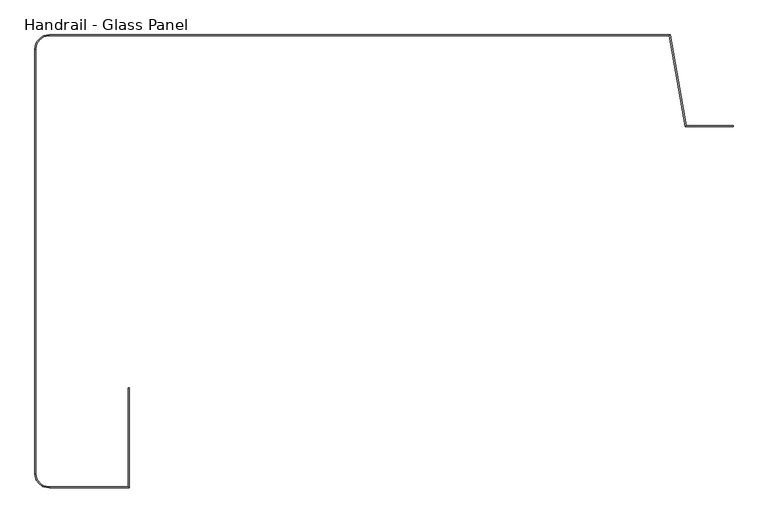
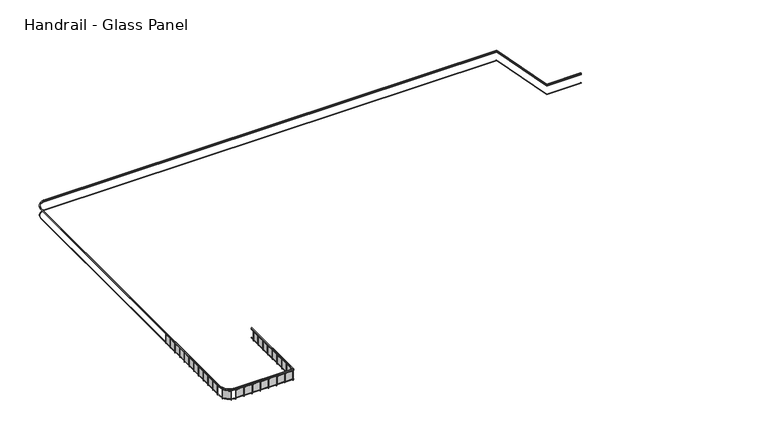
"""IFC4 building model written with IfcOpenShell, lengths in millimetres: railing geometry, Handrail - Glass Panel."""

from ifc_helpers import new_model, si_unit, frame, origin, place, context, project, spatial, polyline, circle_curve, outline, extrude, source, transform, mapped, element, save
from ifc_brep_helpers import plane_surface, cylinder_surface, revolved_surface, advanced_brep


def handrail_glass_panel_8400b6d2(model_context):
    return source(origin(), model_context, "Body", "SolidModel", [
        advanced_brep(
        [(19857.4134101, 5398.1851347, 9014.4), (19857.4134101, 5347.3851347, 9014.4), (19857.4134101, 5347.3851347, 8963.6), (19857.4134101, 5398.1851347, 8963.6), (17200.0396714, 5398.1851347, 9014.4), (17157.4134101, 5347.3851347, 9014.4), (17157.4134101, 5347.3851347, 8963.6), (17200.0396714, 5398.1851347, 8963.6), (16291.9557207, 10548.1851347, 9014.4), (16249.3294595, 10497.3851347, 9014.4), (16249.3294595, 10497.3851347, 8963.6), (16291.9557207, 10548.1851347, 8963.6), (-18887.5865899, 10548.1851347, 9014.4), (-18887.5865899, 10497.3851347, 9014.4), (-18887.5865899, 10497.3851347, 8963.6), (-18887.5865899, 10548.1851347, 8963.6), (-19637.5865899, 9747.3851347, 9014.4), (-19688.3865899, 9747.3851347, 9014.4), (-19637.5865899, 9747.3851347, 8963.6), (-19688.3865899, 9747.3851347, 8963.6), (-19688.3865899, -14322.6148653, 9014.4), (-19637.5865899, -14322.6148653, 9014.4), (-19637.5865899, -14322.6148653, 8963.6), (-19688.3865899, -14322.6148653, 8963.6), (-18887.5865899, -15072.6148653, 9014.4), (-18887.5865899, -15123.4148653, 9014.4), (-18887.5865899, -15072.6148653, 8963.6), (-18887.5865899, -15123.4148653, 8963.6), (-14346.7865899, -15123.4148653, 9014.4), (-14397.5865899, -15072.6148653, 9014.4), (-14397.5865899, -15072.6148653, 8963.6), (-14346.7865899, -15123.4148653, 8963.6), (-14346.7865899, -9472.6148653, 9014.4), (-14346.7865899, -9472.6148653, 8963.6), (-14397.5865899, -9472.6148653, 8963.6), (-14397.5865899, -9472.6148653, 9014.4)],
        [
            (0, 1),
            (1, 2),
            (2, 3),
            (3, 0),
            (0, 4),
            (4, 5),
            (5, 1),
            (5, 6),
            (6, 2),
            (6, 7),
            (7, 3),
            (7, 4),
            (4, 8),
            (8, 9),
            (9, 5),
            (9, 10),
            (10, 6),
            (10, 11),
            (11, 7),
            (11, 8),
            (8, 12),
            (12, 13),
            (13, 9),
            (13, 14),
            (14, 10),
            (14, 15),
            (15, 11),
            (15, 12),
            (16, 13, circle_curve(frame((-18887.5865899, 9747.3851347, 9014.4), z_axis=(0.0, 0.0, -1.0), x_axis=(0.0, 1.0, 0.0)), 750.0)),
            (12, 17, circle_curve(frame((-18887.5865899, 9747.3851347, 9014.4), z_axis=(0.0, 0.0, 1.0), x_axis=(0.0, 1.0, 0.0)), 800.8)),
            (17, 16),
            (18, 14, circle_curve(frame((-18887.5865899, 9747.3851347, 8963.6), z_axis=(0.0, 0.0, -1.0), x_axis=(0.0, 1.0, 0.0)), 750.0)),
            (16, 18),
            (19, 15, circle_curve(frame((-18887.5865899, 9747.3851347, 8963.6), z_axis=(0.0, 0.0, -1.0), x_axis=(0.0, 1.0, 0.0)), 800.8)),
            (18, 19),
            (19, 17),
            (17, 20),
            (20, 21),
            (21, 16),
            (21, 22),
            (22, 18),
            (22, 23),
            (23, 19),
            (23, 20),
            (24, 21, circle_curve(frame((-18887.5865899, -14322.6148653, 9014.4), z_axis=(0.0, 0.0, -1.0), x_axis=(-1.0, 0.0, 0.0)), 750.0)),
            (20, 25, circle_curve(frame((-18887.5865899, -14322.6148653, 9014.4), z_axis=(0.0, 0.0, 1.0), x_axis=(-1.0, 0.0, 0.0)), 800.8)),
            (25, 24),
            (26, 22, circle_curve(frame((-18887.5865899, -14322.6148653, 8963.6), z_axis=(0.0, 0.0, -1.0), x_axis=(-1.0, 0.0, 0.0)), 750.0)),
            (24, 26),
            (27, 23, circle_curve(frame((-18887.5865899, -14322.6148653, 8963.6), z_axis=(0.0, 0.0, -1.0), x_axis=(-1.0, 0.0, 0.0)), 800.8)),
            (26, 27),
            (27, 25),
            (25, 28),
            (28, 29),
            (29, 24),
            (29, 30),
            (30, 26),
            (30, 31),
            (31, 27),
            (31, 28),
            (32, 33),
            (33, 34),
            (34, 35),
            (35, 32),
            (28, 32),
            (35, 29),
            (34, 30),
            (33, 31),
        ],
        [
            plane_surface(frame((19857.4134101, 5372.7851347, 9014.4), z_axis=(1.0, 0.0, 0.0), x_axis=(0.0, -1.0, 0.0))),
            plane_surface(frame((19857.4134101, 5398.1851347, 9014.4), z_axis=(0.0, 0.0, 1.0), x_axis=(-1.0, 0.0, 0.0))),
            plane_surface(frame((19857.4134101, 5347.3851347, 9014.4), z_axis=(0.0, -1.0, 0.0), x_axis=(-1.0, 0.0, 0.0))),
            plane_surface(frame((19857.4134101, 5347.3851347, 8963.6), z_axis=(0.0, 0.0, -1.0), x_axis=(-1.0, 0.0, 0.0))),
            plane_surface(frame((19857.4134101, 5398.1851347, 8963.6), z_axis=(0.0, 1.0, 0.0), x_axis=(-1.0, 0.0, 0.0))),
            plane_surface(frame((17200.0396714, 5398.1851347, 9014.4), z_axis=(0.0, 0.0, 1.0000000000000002), x_axis=(-0.17364817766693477, 0.9848077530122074, 0.0))),
            plane_surface(frame((17157.4134101, 5347.3851347, 9014.4), z_axis=(-0.9848077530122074, -0.17364817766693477, 0.0), x_axis=(-0.17364817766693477, 0.9848077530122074, 0.0))),
            plane_surface(frame((17157.4134101, 5347.3851347, 8963.6), z_axis=(0.0, 0.0, -1.0000000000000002), x_axis=(-0.1736481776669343, 0.9848077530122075, 0.0))),
            plane_surface(frame((17200.0396714, 5398.1851347, 8963.6), z_axis=(0.9848077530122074, 0.17364817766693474, 0.0), x_axis=(-0.17364817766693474, 0.9848077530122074, 0.0))),
            plane_surface(frame((16291.9557207, 10548.1851347, 9014.4), z_axis=(0.0, 0.0, 1.0), x_axis=(-1.0, 0.0, 0.0))),
            plane_surface(frame((16249.3294595, 10497.3851347, 9014.4), z_axis=(0.0, -1.0, 0.0), x_axis=(-1.0, 0.0, 0.0))),
            plane_surface(frame((16249.3294595, 10497.3851347, 8963.6), z_axis=(0.0, 0.0, -1.0), x_axis=(-1.0, 0.0, 0.0))),
            plane_surface(frame((16291.9557207, 10548.1851347, 8963.6), z_axis=(0.0, 1.0, 0.0), x_axis=(-1.0, 0.0, 0.0))),
            plane_surface(frame((-18887.5865899, 9747.3851347, 9014.4), z_axis=(0.0, 0.0, 1.0), x_axis=(0.0, 1.0, 0.0))),
            revolved_surface(polyline([(-18887.5865899, 10497.3851347, 9014.4), (-18887.5865899, 10497.3851347, 8963.6)]), (-18887.5865899, 9747.3851347, 9014.4), (0.0, 0.0, 1.0)),
            plane_surface(frame((-18887.5865899, 9747.3851347, 8963.6), z_axis=(0.0, 0.0, -1.0), x_axis=(0.0, 1.0, 0.0))),
            cylinder_surface(frame((-18887.5865899, 9747.3851347, 9014.4), z_axis=(0.0, 0.0, 1.0), x_axis=(0.0, 1.0, 0.0)), 800.8),
            plane_surface(frame((-19688.3865899, 9747.3851347, 9014.4), z_axis=(0.0, 0.0, 1.0), x_axis=(0.0, -1.0, 0.0))),
            plane_surface(frame((-19637.5865899, 9747.3851347, 9014.4), z_axis=(1.0, 0.0, 0.0), x_axis=(0.0, -1.0, 0.0))),
            plane_surface(frame((-19637.5865899, 9747.3851347, 8963.6), z_axis=(0.0, 0.0, -1.0), x_axis=(0.0, -1.0, 0.0))),
            plane_surface(frame((-19688.3865899, 9747.3851347, 8963.6), z_axis=(-1.0, 0.0, 0.0), x_axis=(0.0, -1.0, 0.0))),
            plane_surface(frame((-18887.5865899, -14322.6148653, 9014.4), z_axis=(0.0, 0.0, 1.0), x_axis=(-1.0, 0.0, 0.0))),
            revolved_surface(polyline([(-19637.5865899, -14322.6148653, 9014.4), (-19637.5865899, -14322.6148653, 8963.6)]), (-18887.5865899, -14322.6148653, 9014.4), (0.0, 0.0, 1.0)),
            plane_surface(frame((-18887.5865899, -14322.6148653, 8963.6), z_axis=(0.0, 0.0, -1.0), x_axis=(-1.0, 0.0, 0.0))),
            cylinder_surface(frame((-18887.5865899, -14322.6148653, 9014.4), z_axis=(0.0, 0.0, 1.0), x_axis=(-1.0, 0.0, 0.0)), 800.8),
            plane_surface(frame((-18887.5865899, -15123.4148653, 9014.4), z_axis=(0.0, 0.0, 1.0), x_axis=(1.0, 0.0, 0.0))),
            plane_surface(frame((-18887.5865899, -15072.6148653, 9014.4), z_axis=(0.0, 1.0, 0.0), x_axis=(1.0, 0.0, 0.0))),
            plane_surface(frame((-18887.5865899, -15072.6148653, 8963.6), z_axis=(0.0, 0.0, -1.0), x_axis=(1.0, 0.0, 0.0))),
            plane_surface(frame((-18887.5865899, -15123.4148653, 8963.6), z_axis=(0.0, -1.0, 0.0), x_axis=(1.0, 0.0, 0.0))),
            plane_surface(frame((-14372.1865899, -9472.6148653, 9014.4), z_axis=(0.0, 1.0, 0.0), x_axis=(0.0, 0.0, 1.0))),
            plane_surface(frame((-14346.7865899, -15123.4148653, 9014.4), z_axis=(0.0, 0.0, 1.0), x_axis=(0.0, 1.0, 0.0))),
            plane_surface(frame((-14397.5865899, -15072.6148653, 9014.4), z_axis=(-1.0, 0.0, 0.0), x_axis=(0.0, 1.0, 0.0))),
            plane_surface(frame((-14397.5865899, -15072.6148653, 8963.6), z_axis=(0.0, 0.0, -1.0), x_axis=(0.0, 1.0, 0.0))),
            plane_surface(frame((-14346.7865899, -15123.4148653, 8963.6), z_axis=(1.0, 0.0, 0.0), x_axis=(0.0, 1.0, 0.0))),
        ],
        [
            (0, [[1, 2, 3, 4]]),
            (1, [[-1, 5, 6, 7]]),
            (2, [[-2, -7, 8, 9]]),
            (3, [[-3, -9, 10, 11]]),
            (4, [[-4, -11, 12, -5]]),
            (5, [[-6, 13, 14, 15]]),
            (6, [[-8, -15, 16, 17]]),
            (7, [[-10, -17, 18, 19]]),
            (8, [[-12, -19, 20, -13]]),
            (9, [[-14, 21, 22, 23]]),
            (10, [[-16, -23, 24, 25]]),
            (11, [[-18, -25, 26, 27]]),
            (12, [[-20, -27, 28, -21]]),
            (13, [[29, -22, 30, 31]]),
            (14, [[32, -24, -29, 33]]),
            (15, [[34, -26, -32, 35]]),
            (16, [[-30, -28, -34, 36]]),
            (17, [[-31, 37, 38, 39]]),
            (18, [[-33, -39, 40, 41]]),
            (19, [[-35, -41, 42, 43]]),
            (20, [[-36, -43, 44, -37]]),
            (21, [[45, -38, 46, 47]]),
            (22, [[48, -40, -45, 49]]),
            (23, [[50, -42, -48, 51]]),
            (24, [[-46, -44, -50, 52]]),
            (25, [[-47, 53, 54, 55]]),
            (26, [[-49, -55, 56, 57]]),
            (27, [[-51, -57, 58, 59]]),
            (28, [[-52, -59, 60, -53]]),
            (29, [[61, 62, 63, 64]]),
            (30, [[-54, 65, -64, 66]]),
            (31, [[-56, -66, -63, 67]]),
            (32, [[-58, -67, -62, 68]]),
            (33, [[-60, -68, -61, -65]]),
        ],
    ),
        advanced_brep(
        [(19857.4134101, 5385.4851347, 8912.8), (19857.4134101, 5360.0851347, 8912.8), (19857.4134101, 5360.0851347, 8887.4), (19857.4134101, 5385.4851347, 8887.4), (17189.3831061, 5385.4851347, 8912.8), (17168.0699754, 5360.0851347, 8912.8), (17168.0699754, 5360.0851347, 8887.4), (17189.3831061, 5385.4851347, 8887.4), (16281.2991554, 10535.4851347, 8912.8), (16259.9860248, 10510.0851347, 8912.8), (16259.9860248, 10510.0851347, 8887.4), (16281.2991554, 10535.4851347, 8887.4), (-18887.5865899, 10535.4851347, 8912.8), (-18887.5865899, 10510.0851347, 8912.8), (-18887.5865899, 10510.0851347, 8887.4), (-18887.5865899, 10535.4851347, 8887.4), (-19650.2865899, 9747.3851347, 8912.8), (-19675.6865899, 9747.3851347, 8912.8), (-19650.2865899, 9747.3851347, 8887.4), (-19675.6865899, 9747.3851347, 8887.4), (-19675.6865899, -14322.6148653, 8912.8), (-19650.2865899, -14322.6148653, 8912.8), (-19650.2865899, -14322.6148653, 8887.4), (-19675.6865899, -14322.6148653, 8887.4), (-18887.5865899, -15085.3148653, 8912.8), (-18887.5865899, -15110.7148653, 8912.8), (-18887.5865899, -15085.3148653, 8887.4), (-18887.5865899, -15110.7148653, 8887.4), (-14359.4865899, -15110.7148653, 8912.8), (-14384.8865899, -15085.3148653, 8912.8), (-14384.8865899, -15085.3148653, 8887.4), (-14359.4865899, -15110.7148653, 8887.4), (-14359.4865899, -9472.6148653, 8912.8), (-14359.4865899, -9472.6148653, 8887.4), (-14384.8865899, -9472.6148653, 8887.4), (-14384.8865899, -9472.6148653, 8912.8)],
        [
            (0, 1),
            (1, 2),
            (2, 3),
            (3, 0),
            (0, 4),
            (4, 5),
            (5, 1),
            (5, 6),
            (6, 2),
            (6, 7),
            (7, 3),
            (7, 4),
            (4, 8),
            (8, 9),
            (9, 5),
            (9, 10),
            (10, 6),
            (10, 11),
            (11, 7),
            (11, 8),
            (8, 12),
            (12, 13),
            (13, 9),
            (13, 14),
            (14, 10),
            (14, 15),
            (15, 11),
            (15, 12),
            (16, 13, circle_curve(frame((-18887.5865899, 9747.3851347, 8912.8), z_axis=(0.0, 0.0, -1.0), x_axis=(0.0, 1.0, 0.0)), 762.7)),
            (12, 17, circle_curve(frame((-18887.5865899, 9747.3851347, 8912.8), z_axis=(0.0, 0.0, 1.0), x_axis=(0.0, 1.0, 0.0)), 788.1)),
            (17, 16),
            (18, 14, circle_curve(frame((-18887.5865899, 9747.3851347, 8887.4), z_axis=(0.0, 0.0, -1.0), x_axis=(0.0, 1.0, 0.0)), 762.7)),
            (16, 18),
            (19, 15, circle_curve(frame((-18887.5865899, 9747.3851347, 8887.4), z_axis=(0.0, 0.0, -1.0), x_axis=(0.0, 1.0, 0.0)), 788.1)),
            (18, 19),
            (19, 17),
            (17, 20),
            (20, 21),
            (21, 16),
            (21, 22),
            (22, 18),
            (22, 23),
            (23, 19),
            (23, 20),
            (24, 21, circle_curve(frame((-18887.5865899, -14322.6148653, 8912.8), z_axis=(0.0, 0.0, -1.0), x_axis=(-1.0, 0.0, 0.0)), 762.7)),
            (20, 25, circle_curve(frame((-18887.5865899, -14322.6148653, 8912.8), z_axis=(0.0, 0.0, 1.0), x_axis=(-1.0, 0.0, 0.0)), 788.1)),
            (25, 24),
            (26, 22, circle_curve(frame((-18887.5865899, -14322.6148653, 8887.4), z_axis=(0.0, 0.0, -1.0), x_axis=(-1.0, 0.0, 0.0)), 762.7)),
            (24, 26),
            (27, 23, circle_curve(frame((-18887.5865899, -14322.6148653, 8887.4), z_axis=(0.0, 0.0, -1.0), x_axis=(-1.0, 0.0, 0.0)), 788.1)),
            (26, 27),
            (27, 25),
            (25, 28),
            (28, 29),
            (29, 24),
            (29, 30),
            (30, 26),
            (30, 31),
            (31, 27),
            (31, 28),
            (32, 33),
            (33, 34),
            (34, 35),
            (35, 32),
            (28, 32),
            (35, 29),
            (34, 30),
            (33, 31),
        ],
        [
            plane_surface(frame((19857.4134101, 5372.7851347, 8912.8), z_axis=(1.0, 0.0, 0.0), x_axis=(0.0, -1.0, 0.0))),
            plane_surface(frame((19857.4134101, 5385.4851347, 8912.8), z_axis=(0.0, 0.0, 1.0), x_axis=(-1.0, 0.0, 0.0))),
            plane_surface(frame((19857.4134101, 5360.0851347, 8912.8), z_axis=(0.0, -1.0, 0.0), x_axis=(-1.0, 0.0, 0.0))),
            plane_surface(frame((19857.4134101, 5360.0851347, 8887.4), z_axis=(0.0, 0.0, -1.0), x_axis=(-1.0, 0.0, 0.0))),
            plane_surface(frame((19857.4134101, 5385.4851347, 8887.4), z_axis=(0.0, 1.0, 0.0), x_axis=(-1.0, 0.0, 0.0))),
            plane_surface(frame((17189.3831061, 5385.4851347, 8912.8), z_axis=(0.0, 0.0, 1.0), x_axis=(-0.17364817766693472, 0.9848077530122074, 0.0))),
            plane_surface(frame((17168.0699754, 5360.0851347, 8912.8), z_axis=(-0.9848077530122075, -0.17364817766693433, 0.0), x_axis=(-0.17364817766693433, 0.9848077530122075, 0.0))),
            plane_surface(frame((17168.0699754, 5360.0851347, 8887.4), z_axis=(0.0, 0.0, -1.0000000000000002), x_axis=(-0.17364817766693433, 0.9848077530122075, 0.0))),
            plane_surface(frame((17189.3831061, 5385.4851347, 8887.4), z_axis=(0.9848077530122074, 0.17364817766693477, 0.0), x_axis=(-0.17364817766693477, 0.9848077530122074, 0.0))),
            plane_surface(frame((16281.2991554, 10535.4851347, 8912.8), z_axis=(0.0, 0.0, 1.0), x_axis=(-1.0, 0.0, 0.0))),
            plane_surface(frame((16259.9860248, 10510.0851347, 8912.8), z_axis=(0.0, -1.0, 0.0), x_axis=(-1.0, 0.0, 0.0))),
            plane_surface(frame((16259.9860248, 10510.0851347, 8887.4), z_axis=(0.0, 0.0, -1.0), x_axis=(-1.0, 0.0, 0.0))),
            plane_surface(frame((16281.2991554, 10535.4851347, 8887.4), z_axis=(0.0, 1.0, 0.0), x_axis=(-1.0, 0.0, 0.0))),
            plane_surface(frame((-18887.5865899, 9747.3851347, 8912.8), z_axis=(0.0, 0.0, 1.0), x_axis=(0.0, 1.0, 0.0))),
            revolved_surface(polyline([(-18887.5865899, 10510.0851347, 8912.8), (-18887.5865899, 10510.0851347, 8887.4)]), (-18887.5865899, 9747.3851347, 8912.8), (0.0, 0.0, 1.0)),
            plane_surface(frame((-18887.5865899, 9747.3851347, 8887.4), z_axis=(0.0, 0.0, -1.0), x_axis=(0.0, 1.0, 0.0))),
            cylinder_surface(frame((-18887.5865899, 9747.3851347, 8912.8), z_axis=(0.0, 0.0, 1.0), x_axis=(0.0, 1.0, 0.0)), 788.1),
            plane_surface(frame((-19675.6865899, 9747.3851347, 8912.8), z_axis=(0.0, 0.0, 1.0), x_axis=(0.0, -1.0, 0.0))),
            plane_surface(frame((-19650.2865899, 9747.3851347, 8912.8), z_axis=(1.0, 0.0, 0.0), x_axis=(0.0, -1.0, 0.0))),
            plane_surface(frame((-19650.2865899, 9747.3851347, 8887.4), z_axis=(0.0, 0.0, -1.0), x_axis=(0.0, -1.0, 0.0))),
            plane_surface(frame((-19675.6865899, 9747.3851347, 8887.4), z_axis=(-1.0, 0.0, 0.0), x_axis=(0.0, -1.0, 0.0))),
            plane_surface(frame((-18887.5865899, -14322.6148653, 8912.8), z_axis=(0.0, 0.0, 1.0), x_axis=(-1.0, 0.0, 0.0))),
            revolved_surface(polyline([(-19650.2865899, -14322.6148653, 8912.8), (-19650.2865899, -14322.6148653, 8887.4)]), (-18887.5865899, -14322.6148653, 8912.8), (0.0, 0.0, 1.0)),
            plane_surface(frame((-18887.5865899, -14322.6148653, 8887.4), z_axis=(0.0, 0.0, -1.0), x_axis=(-1.0, 0.0, 0.0))),
            cylinder_surface(frame((-18887.5865899, -14322.6148653, 8912.8), z_axis=(0.0, 0.0, 1.0), x_axis=(-1.0, 0.0, 0.0)), 788.1),
            plane_surface(frame((-18887.5865899, -15110.7148653, 8912.8), z_axis=(0.0, 0.0, 1.0), x_axis=(1.0, 0.0, 0.0))),
            plane_surface(frame((-18887.5865899, -15085.3148653, 8912.8), z_axis=(0.0, 1.0, 0.0), x_axis=(1.0, 0.0, 0.0))),
            plane_surface(frame((-18887.5865899, -15085.3148653, 8887.4), z_axis=(0.0, 0.0, -1.0), x_axis=(1.0, 0.0, 0.0))),
            plane_surface(frame((-18887.5865899, -15110.7148653, 8887.4), z_axis=(0.0, -1.0, 0.0), x_axis=(1.0, 0.0, 0.0))),
            plane_surface(frame((-14372.1865899, -9472.6148653, 8912.8), z_axis=(0.0, 1.0, 0.0), x_axis=(0.0, 0.0, 1.0))),
            plane_surface(frame((-14359.4865899, -15110.7148653, 8912.8), z_axis=(0.0, 0.0, 1.0), x_axis=(0.0, 1.0, 0.0))),
            plane_surface(frame((-14384.8865899, -15085.3148653, 8912.8), z_axis=(-1.0, 0.0, 0.0), x_axis=(0.0, 1.0, 0.0))),
            plane_surface(frame((-14384.8865899, -15085.3148653, 8887.4), z_axis=(0.0, 0.0, -1.0), x_axis=(0.0, 1.0, 0.0))),
            plane_surface(frame((-14359.4865899, -15110.7148653, 8887.4), z_axis=(1.0, 0.0, 0.0), x_axis=(0.0, 1.0, 0.0))),
        ],
        [
            (0, [[1, 2, 3, 4]]),
            (1, [[-1, 5, 6, 7]]),
            (2, [[-2, -7, 8, 9]]),
            (3, [[-3, -9, 10, 11]]),
            (4, [[-4, -11, 12, -5]]),
            (5, [[-6, 13, 14, 15]]),
            (6, [[-8, -15, 16, 17]]),
            (7, [[-10, -17, 18, 19]]),
            (8, [[-12, -19, 20, -13]]),
            (9, [[-14, 21, 22, 23]]),
            (10, [[-16, -23, 24, 25]]),
            (11, [[-18, -25, 26, 27]]),
            (12, [[-20, -27, 28, -21]]),
            (13, [[29, -22, 30, 31]]),
            (14, [[32, -24, -29, 33]]),
            (15, [[34, -26, -32, 35]]),
            (16, [[-30, -28, -34, 36]]),
            (17, [[-31, 37, 38, 39]]),
            (18, [[-33, -39, 40, 41]]),
            (19, [[-35, -41, 42, 43]]),
            (20, [[-36, -43, 44, -37]]),
            (21, [[45, -38, 46, 47]]),
            (22, [[48, -40, -45, 49]]),
            (23, [[50, -42, -48, 51]]),
            (24, [[-46, -44, -50, 52]]),
            (25, [[-47, 53, 54, 55]]),
            (26, [[-49, -55, 56, 57]]),
            (27, [[-51, -57, 58, 59]]),
            (28, [[-52, -59, 60, -53]]),
            (29, [[61, 62, 63, 64]]),
            (30, [[-54, 65, -64, 66]]),
            (31, [[-56, -66, -63, 67]]),
            (32, [[-58, -67, -62, 68]]),
            (33, [[-60, -68, -61, -65]]),
        ],
    ),
        advanced_brep(
        [(19857.4134101, 5385.4851347, 8201.6), (19857.4134101, 5360.0851347, 8201.6), (19857.4134101, 5360.0851347, 8176.2), (19857.4134101, 5385.4851347, 8176.2), (17189.3831061, 5385.4851347, 8201.6), (17168.0699754, 5360.0851347, 8201.6), (17168.0699754, 5360.0851347, 8176.2), (17189.3831061, 5385.4851347, 8176.2), (16281.2991554, 10535.4851347, 8201.6), (16259.9860248, 10510.0851347, 8201.6), (16259.9860248, 10510.0851347, 8176.2), (16281.2991554, 10535.4851347, 8176.2), (-18887.5865899, 10535.4851347, 8201.6), (-18887.5865899, 10510.0851347, 8201.6), (-18887.5865899, 10510.0851347, 8176.2), (-18887.5865899, 10535.4851347, 8176.2), (-19650.2865899, 9747.3851347, 8201.6), (-19675.6865899, 9747.3851347, 8201.6), (-19650.2865899, 9747.3851347, 8176.2), (-19675.6865899, 9747.3851347, 8176.2), (-19675.6865899, -14322.6148653, 8201.6), (-19650.2865899, -14322.6148653, 8201.6), (-19650.2865899, -14322.6148653, 8176.2), (-19675.6865899, -14322.6148653, 8176.2), (-18887.5865899, -15085.3148653, 8201.6), (-18887.5865899, -15110.7148653, 8201.6), (-18887.5865899, -15085.3148653, 8176.2), (-18887.5865899, -15110.7148653, 8176.2), (-14359.4865899, -15110.7148653, 8201.6), (-14384.8865899, -15085.3148653, 8201.6), (-14384.8865899, -15085.3148653, 8176.2), (-14359.4865899, -15110.7148653, 8176.2), (-14359.4865899, -9472.6148653, 8201.6), (-14359.4865899, -9472.6148653, 8176.2), (-14384.8865899, -9472.6148653, 8176.2), (-14384.8865899, -9472.6148653, 8201.6)],
        [
            (0, 1),
            (1, 2),
            (2, 3),
            (3, 0),
            (0, 4),
            (4, 5),
            (5, 1),
            (5, 6),
            (6, 2),
            (6, 7),
            (7, 3),
            (7, 4),
            (4, 8),
            (8, 9),
            (9, 5),
            (9, 10),
            (10, 6),
            (10, 11),
            (11, 7),
            (11, 8),
            (8, 12),
            (12, 13),
            (13, 9),
            (13, 14),
            (14, 10),
            (14, 15),
            (15, 11),
            (15, 12),
            (16, 13, circle_curve(frame((-18887.5865899, 9747.3851347, 8201.6), z_axis=(0.0, 0.0, -1.0), x_axis=(0.0, 1.0, 0.0)), 762.7)),
            (12, 17, circle_curve(frame((-18887.5865899, 9747.3851347, 8201.6), z_axis=(0.0, 0.0, 1.0), x_axis=(0.0, 1.0, 0.0)), 788.1)),
            (17, 16),
            (18, 14, circle_curve(frame((-18887.5865899, 9747.3851347, 8176.2), z_axis=(0.0, 0.0, -1.0), x_axis=(0.0, 1.0, 0.0)), 762.7)),
            (16, 18),
            (19, 15, circle_curve(frame((-18887.5865899, 9747.3851347, 8176.2), z_axis=(0.0, 0.0, -1.0), x_axis=(0.0, 1.0, 0.0)), 788.1)),
            (18, 19),
            (19, 17),
            (17, 20),
            (20, 21),
            (21, 16),
            (21, 22),
            (22, 18),
            (22, 23),
            (23, 19),
            (23, 20),
            (24, 21, circle_curve(frame((-18887.5865899, -14322.6148653, 8201.6), z_axis=(0.0, 0.0, -1.0), x_axis=(-1.0, 0.0, 0.0)), 762.7)),
            (20, 25, circle_curve(frame((-18887.5865899, -14322.6148653, 8201.6), z_axis=(0.0, 0.0, 1.0), x_axis=(-1.0, 0.0, 0.0)), 788.1)),
            (25, 24),
            (26, 22, circle_curve(frame((-18887.5865899, -14322.6148653, 8176.2), z_axis=(0.0, 0.0, -1.0), x_axis=(-1.0, 0.0, 0.0)), 762.7)),
            (24, 26),
            (27, 23, circle_curve(frame((-18887.5865899, -14322.6148653, 8176.2), z_axis=(0.0, 0.0, -1.0), x_axis=(-1.0, 0.0, 0.0)), 788.1)),
            (26, 27),
            (27, 25),
            (25, 28),
            (28, 29),
            (29, 24),
            (29, 30),
            (30, 26),
            (30, 31),
            (31, 27),
            (31, 28),
            (32, 33),
            (33, 34),
            (34, 35),
            (35, 32),
            (28, 32),
            (35, 29),
            (34, 30),
            (33, 31),
        ],
        [
            plane_surface(frame((19857.4134101, 5372.7851347, 8201.6), z_axis=(1.0, 0.0, 0.0), x_axis=(0.0, -1.0, 0.0))),
            plane_surface(frame((19857.4134101, 5385.4851347, 8201.6), z_axis=(0.0, 0.0, 1.0), x_axis=(-1.0, 0.0, 0.0))),
            plane_surface(frame((19857.4134101, 5360.0851347, 8201.6), z_axis=(0.0, -1.0, 0.0), x_axis=(-1.0, 0.0, 0.0))),
            plane_surface(frame((19857.4134101, 5360.0851347, 8176.2), z_axis=(0.0, 0.0, -1.0), x_axis=(-1.0, 0.0, 0.0))),
            plane_surface(frame((19857.4134101, 5385.4851347, 8176.2), z_axis=(0.0, 1.0, 0.0), x_axis=(-1.0, 0.0, 0.0))),
            plane_surface(frame((17189.3831061, 5385.4851347, 8201.6), z_axis=(0.0, 0.0, 1.0), x_axis=(-0.17364817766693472, 0.9848077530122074, 0.0))),
            plane_surface(frame((17168.0699754, 5360.0851347, 8201.6), z_axis=(-0.9848077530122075, -0.17364817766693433, 0.0), x_axis=(-0.17364817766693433, 0.9848077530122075, 0.0))),
            plane_surface(frame((17168.0699754, 5360.0851347, 8176.2), z_axis=(0.0, 0.0, -1.0000000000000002), x_axis=(-0.17364817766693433, 0.9848077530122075, 0.0))),
            plane_surface(frame((17189.3831061, 5385.4851347, 8176.2), z_axis=(0.9848077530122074, 0.17364817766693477, 0.0), x_axis=(-0.17364817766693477, 0.9848077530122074, 0.0))),
            plane_surface(frame((16281.2991554, 10535.4851347, 8201.6), z_axis=(0.0, 0.0, 1.0), x_axis=(-1.0, 0.0, 0.0))),
            plane_surface(frame((16259.9860248, 10510.0851347, 8201.6), z_axis=(0.0, -1.0, 0.0), x_axis=(-1.0, 0.0, 0.0))),
            plane_surface(frame((16259.9860248, 10510.0851347, 8176.2), z_axis=(0.0, 0.0, -1.0), x_axis=(-1.0, 0.0, 0.0))),
            plane_surface(frame((16281.2991554, 10535.4851347, 8176.2), z_axis=(0.0, 1.0, 0.0), x_axis=(-1.0, 0.0, 0.0))),
            plane_surface(frame((-18887.5865899, 9747.3851347, 8201.6), z_axis=(0.0, 0.0, 1.0), x_axis=(0.0, 1.0, 0.0))),
            revolved_surface(polyline([(-18887.5865899, 10510.0851347, 8201.6), (-18887.5865899, 10510.0851347, 8176.2)]), (-18887.5865899, 9747.3851347, 8201.6), (0.0, 0.0, 1.0)),
            plane_surface(frame((-18887.5865899, 9747.3851347, 8176.2), z_axis=(0.0, 0.0, -1.0), x_axis=(0.0, 1.0, 0.0))),
            cylinder_surface(frame((-18887.5865899, 9747.3851347, 8201.6), z_axis=(0.0, 0.0, 1.0), x_axis=(0.0, 1.0, 0.0)), 788.1),
            plane_surface(frame((-19675.6865899, 9747.3851347, 8201.6), z_axis=(0.0, 0.0, 1.0), x_axis=(0.0, -1.0, 0.0))),
            plane_surface(frame((-19650.2865899, 9747.3851347, 8201.6), z_axis=(1.0, 0.0, 0.0), x_axis=(0.0, -1.0, 0.0))),
            plane_surface(frame((-19650.2865899, 9747.3851347, 8176.2), z_axis=(0.0, 0.0, -1.0), x_axis=(0.0, -1.0, 0.0))),
            plane_surface(frame((-19675.6865899, 9747.3851347, 8176.2), z_axis=(-1.0, 0.0, 0.0), x_axis=(0.0, -1.0, 0.0))),
            plane_surface(frame((-18887.5865899, -14322.6148653, 8201.6), z_axis=(0.0, 0.0, 1.0), x_axis=(-1.0, 0.0, 0.0))),
            revolved_surface(polyline([(-19650.2865899, -14322.6148653, 8201.6), (-19650.2865899, -14322.6148653, 8176.2)]), (-18887.5865899, -14322.6148653, 8201.6), (0.0, 0.0, 1.0)),
            plane_surface(frame((-18887.5865899, -14322.6148653, 8176.2), z_axis=(0.0, 0.0, -1.0), x_axis=(-1.0, 0.0, 0.0))),
            cylinder_surface(frame((-18887.5865899, -14322.6148653, 8201.6), z_axis=(0.0, 0.0, 1.0), x_axis=(-1.0, 0.0, 0.0)), 788.1),
            plane_surface(frame((-18887.5865899, -15110.7148653, 8201.6), z_axis=(0.0, 0.0, 1.0), x_axis=(1.0, 0.0, 0.0))),
            plane_surface(frame((-18887.5865899, -15085.3148653, 8201.6), z_axis=(0.0, 1.0, 0.0), x_axis=(1.0, 0.0, 0.0))),
            plane_surface(frame((-18887.5865899, -15085.3148653, 8176.2), z_axis=(0.0, 0.0, -1.0), x_axis=(1.0, 0.0, 0.0))),
            plane_surface(frame((-18887.5865899, -15110.7148653, 8176.2), z_axis=(0.0, -1.0, 0.0), x_axis=(1.0, 0.0, 0.0))),
            plane_surface(frame((-14372.1865899, -9472.6148653, 8201.6), z_axis=(0.0, 1.0, 0.0), x_axis=(0.0, 0.0, 1.0))),
            plane_surface(frame((-14359.4865899, -15110.7148653, 8201.6), z_axis=(0.0, 0.0, 1.0), x_axis=(0.0, 1.0, 0.0))),
            plane_surface(frame((-14384.8865899, -15085.3148653, 8201.6), z_axis=(-1.0, 0.0, 0.0), x_axis=(0.0, 1.0, 0.0))),
            plane_surface(frame((-14384.8865899, -15085.3148653, 8176.2), z_axis=(0.0, 0.0, -1.0), x_axis=(0.0, 1.0, 0.0))),
            plane_surface(frame((-14359.4865899, -15110.7148653, 8176.2), z_axis=(1.0, 0.0, 0.0), x_axis=(0.0, 1.0, 0.0))),
        ],
        [
            (0, [[1, 2, 3, 4]]),
            (1, [[-1, 5, 6, 7]]),
            (2, [[-2, -7, 8, 9]]),
            (3, [[-3, -9, 10, 11]]),
            (4, [[-4, -11, 12, -5]]),
            (5, [[-6, 13, 14, 15]]),
            (6, [[-8, -15, 16, 17]]),
            (7, [[-10, -17, 18, 19]]),
            (8, [[-12, -19, 20, -13]]),
            (9, [[-14, 21, 22, 23]]),
            (10, [[-16, -23, 24, 25]]),
            (11, [[-18, -25, 26, 27]]),
            (12, [[-20, -27, 28, -21]]),
            (13, [[29, -22, 30, 31]]),
            (14, [[32, -24, -29, 33]]),
            (15, [[34, -26, -32, 35]]),
            (16, [[-30, -28, -34, 36]]),
            (17, [[-31, 37, 38, 39]]),
            (18, [[-33, -39, 40, 41]]),
            (19, [[-35, -41, 42, 43]]),
            (20, [[-36, -43, 44, -37]]),
            (21, [[45, -38, 46, 47]]),
            (22, [[48, -40, -45, 49]]),
            (23, [[50, -42, -48, 51]]),
            (24, [[-46, -44, -50, 52]]),
            (25, [[-47, 53, 54, 55]]),
            (26, [[-49, -55, 56, 57]]),
            (27, [[-51, -57, 58, 59]]),
            (28, [[-52, -59, 60, -53]]),
            (29, [[61, 62, 63, 64]]),
            (30, [[-54, 65, -64, 66]]),
            (31, [[-56, -66, -63, 67]]),
            (32, [[-58, -67, -62, 68]]),
            (33, [[-60, -68, -61, -65]]),
        ],
    ),
        extrude(outline(polyline([(-14362.6615899, -9754.8398653), (-14381.7115899, -9754.8398653), (-14381.7115899, -9735.7898653), (-14362.6615899, -9735.7898653), (-14362.6615899, -9754.8398653)])), frame((0.0, 0.0, 8100.0), z_axis=(0.0, 0.0, 1.0), x_axis=(1.0, 0.0, 0.0)), (0.0, 0.0, 1.0), 863.6),
        extrude(outline(polyline([(-14378.5365899, -10342.2148653), (-14378.5365899, -9783.4148653), (-14372.1865899, -9783.4148653), (-14372.1865899, -10342.2148653), (-14378.5365899, -10342.2148653)])), frame((0.0, 0.0, 8227.0), z_axis=(0.0, 0.0, 1.0), x_axis=(1.0, 0.0, 0.0)), (0.0, 0.0, 1.0), 635.0),
        extrude(outline(polyline([(-14362.6615899, -10389.8398653), (-14381.7115899, -10389.8398653), (-14381.7115899, -10370.7898653), (-14362.6615899, -10370.7898653), (-14362.6615899, -10389.8398653)])), frame((0.0, 0.0, 8100.0), z_axis=(0.0, 0.0, 1.0), x_axis=(1.0, 0.0, 0.0)), (0.0, 0.0, 1.0), 863.6),
        extrude(outline(polyline([(-14378.5365899, -10977.2148653), (-14378.5365899, -10418.4148653), (-14372.1865899, -10418.4148653), (-14372.1865899, -10977.2148653), (-14378.5365899, -10977.2148653)])), frame((0.0, 0.0, 8227.0), z_axis=(0.0, 0.0, 1.0), x_axis=(1.0, 0.0, 0.0)), (0.0, 0.0, 1.0), 635.0),
        extrude(outline(polyline([(-14362.6615899, -11024.8398653), (-14381.7115899, -11024.8398653), (-14381.7115899, -11005.7898653), (-14362.6615899, -11005.7898653), (-14362.6615899, -11024.8398653)])), frame((0.0, 0.0, 8100.0), z_axis=(0.0, 0.0, 1.0), x_axis=(1.0, 0.0, 0.0)), (0.0, 0.0, 1.0), 863.6),
        extrude(outline(polyline([(-14378.5365899, -11612.2148653), (-14378.5365899, -11053.4148653), (-14372.1865899, -11053.4148653), (-14372.1865899, -11612.2148653), (-14378.5365899, -11612.2148653)])), frame((0.0, 0.0, 8227.0), z_axis=(0.0, 0.0, 1.0), x_axis=(1.0, 0.0, 0.0)), (0.0, 0.0, 1.0), 635.0),
        extrude(outline(polyline([(-14362.6615899, -11659.8398653), (-14381.7115899, -11659.8398653), (-14381.7115899, -11640.7898653), (-14362.6615899, -11640.7898653), (-14362.6615899, -11659.8398653)])), frame((0.0, 0.0, 8100.0), z_axis=(0.0, 0.0, 1.0), x_axis=(1.0, 0.0, 0.0)), (0.0, 0.0, 1.0), 863.6),
        extrude(outline(polyline([(-14378.5365899, -12247.2148653), (-14378.5365899, -11688.4148653), (-14372.1865899, -11688.4148653), (-14372.1865899, -12247.2148653), (-14378.5365899, -12247.2148653)])), frame((0.0, 0.0, 8227.0), z_axis=(0.0, 0.0, 1.0), x_axis=(1.0, 0.0, 0.0)), (0.0, 0.0, 1.0), 635.0),
        extrude(outline(polyline([(-14362.6615899, -12294.8398653), (-14381.7115899, -12294.8398653), (-14381.7115899, -12275.7898653), (-14362.6615899, -12275.7898653), (-14362.6615899, -12294.8398653)])), frame((0.0, 0.0, 8100.0), z_axis=(0.0, 0.0, 1.0), x_axis=(1.0, 0.0, 0.0)), (0.0, 0.0, 1.0), 863.6),
        extrude(outline(polyline([(-14378.5365899, -12882.2148653), (-14378.5365899, -12323.4148653), (-14372.1865899, -12323.4148653), (-14372.1865899, -12882.2148653), (-14378.5365899, -12882.2148653)])), frame((0.0, 0.0, 8227.0), z_axis=(0.0, 0.0, 1.0), x_axis=(1.0, 0.0, 0.0)), (0.0, 0.0, 1.0), 635.0),
        extrude(outline(polyline([(-14362.6615899, -12929.8398653), (-14381.7115899, -12929.8398653), (-14381.7115899, -12910.7898653), (-14362.6615899, -12910.7898653), (-14362.6615899, -12929.8398653)])), frame((0.0, 0.0, 8100.0), z_axis=(0.0, 0.0, 1.0), x_axis=(1.0, 0.0, 0.0)), (0.0, 0.0, 1.0), 863.6),
        extrude(outline(polyline([(-14378.5365899, -13517.2148653), (-14378.5365899, -12958.4148653), (-14372.1865899, -12958.4148653), (-14372.1865899, -13517.2148653), (-14378.5365899, -13517.2148653)])), frame((0.0, 0.0, 8227.0), z_axis=(0.0, 0.0, 1.0), x_axis=(1.0, 0.0, 0.0)), (0.0, 0.0, 1.0), 635.0),
        extrude(outline(polyline([(-14362.6615899, -13564.8398653), (-14381.7115899, -13564.8398653), (-14381.7115899, -13545.7898653), (-14362.6615899, -13545.7898653), (-14362.6615899, -13564.8398653)])), frame((0.0, 0.0, 8100.0), z_axis=(0.0, 0.0, 1.0), x_axis=(1.0, 0.0, 0.0)), (0.0, 0.0, 1.0), 863.6),
        extrude(outline(polyline([(-14378.5365899, -14152.2148653), (-14378.5365899, -13593.4148653), (-14372.1865899, -13593.4148653), (-14372.1865899, -14152.2148653), (-14378.5365899, -14152.2148653)])), frame((0.0, 0.0, 8227.0), z_axis=(0.0, 0.0, 1.0), x_axis=(1.0, 0.0, 0.0)), (0.0, 0.0, 1.0), 635.0),
        extrude(outline(polyline([(-14362.6615899, -14199.8398653), (-14381.7115899, -14199.8398653), (-14381.7115899, -14180.7898653), (-14362.6615899, -14180.7898653), (-14362.6615899, -14199.8398653)])), frame((0.0, 0.0, 8100.0), z_axis=(0.0, 0.0, 1.0), x_axis=(1.0, 0.0, 0.0)), (0.0, 0.0, 1.0), 863.6),
        extrude(outline(polyline([(-14378.5365899, -14787.2148653), (-14378.5365899, -14228.4148653), (-14372.1865899, -14228.4148653), (-14372.1865899, -14787.2148653), (-14378.5365899, -14787.2148653)])), frame((0.0, 0.0, 8227.0), z_axis=(0.0, 0.0, 1.0), x_axis=(1.0, 0.0, 0.0)), (0.0, 0.0, 1.0), 635.0),
        extrude(outline(polyline([(-14362.6615899, -14834.8398653), (-14381.7115899, -14834.8398653), (-14381.7115899, -14815.7898653), (-14362.6615899, -14815.7898653), (-14362.6615899, -14834.8398653)])), frame((0.0, 0.0, 8100.0), z_axis=(0.0, 0.0, 1.0), x_axis=(1.0, 0.0, 0.0)), (0.0, 0.0, 1.0), 863.6),
        extrude(outline(polyline([(-14416.9115899, -15107.5398653), (-14416.9115899, -15088.4898653), (-14397.8615899, -15088.4898653), (-14397.8615899, -15107.5398653), (-14416.9115899, -15107.5398653)])), frame((0.0, 0.0, 8100.0), z_axis=(0.0, 0.0, 1.0), x_axis=(1.0, 0.0, 0.0)), (0.0, 0.0, 1.0), 863.6),
        extrude(outline(polyline([(-15004.2865899, -15091.6648653), (-14445.4865899, -15091.6648653), (-14445.4865899, -15098.0148653), (-15004.2865899, -15098.0148653), (-15004.2865899, -15091.6648653)])), frame((0.0, 0.0, 8227.0), z_axis=(0.0, 0.0, 1.0), x_axis=(1.0, 0.0, 0.0)), (0.0, 0.0, 1.0), 635.0),
        extrude(outline(polyline([(-15051.9115899, -15107.5398653), (-15051.9115899, -15088.4898653), (-15032.8615899, -15088.4898653), (-15032.8615899, -15107.5398653), (-15051.9115899, -15107.5398653)])), frame((0.0, 0.0, 8100.0), z_axis=(0.0, 0.0, 1.0), x_axis=(1.0, 0.0, 0.0)), (0.0, 0.0, 1.0), 863.6),
        extrude(outline(polyline([(-15639.2865899, -15091.6648653), (-15080.4865899, -15091.6648653), (-15080.4865899, -15098.0148653), (-15639.2865899, -15098.0148653), (-15639.2865899, -15091.6648653)])), frame((0.0, 0.0, 8227.0), z_axis=(0.0, 0.0, 1.0), x_axis=(1.0, 0.0, 0.0)), (0.0, 0.0, 1.0), 635.0),
        extrude(outline(polyline([(-15686.9115899, -15107.5398653), (-15686.9115899, -15088.4898653), (-15667.8615899, -15088.4898653), (-15667.8615899, -15107.5398653), (-15686.9115899, -15107.5398653)])), frame((0.0, 0.0, 8100.0), z_axis=(0.0, 0.0, 1.0), x_axis=(1.0, 0.0, 0.0)), (0.0, 0.0, 1.0), 863.6),
        extrude(outline(polyline([(-16274.2865899, -15091.6648653), (-15715.4865899, -15091.6648653), (-15715.4865899, -15098.0148653), (-16274.2865899, -15098.0148653), (-16274.2865899, -15091.6648653)])), frame((0.0, 0.0, 8227.0), z_axis=(0.0, 0.0, 1.0), x_axis=(1.0, 0.0, 0.0)), (0.0, 0.0, 1.0), 635.0),
        extrude(outline(polyline([(-16321.9115899, -15107.5398653), (-16321.9115899, -15088.4898653), (-16302.8615899, -15088.4898653), (-16302.8615899, -15107.5398653), (-16321.9115899, -15107.5398653)])), frame((0.0, 0.0, 8100.0), z_axis=(0.0, 0.0, 1.0), x_axis=(1.0, 0.0, 0.0)), (0.0, 0.0, 1.0), 863.6),
        extrude(outline(polyline([(-16909.2865899, -15091.6648653), (-16350.4865899, -15091.6648653), (-16350.4865899, -15098.0148653), (-16909.2865899, -15098.0148653), (-16909.2865899, -15091.6648653)])), frame((0.0, 0.0, 8227.0), z_axis=(0.0, 0.0, 1.0), x_axis=(1.0, 0.0, 0.0)), (0.0, 0.0, 1.0), 635.0),
        extrude(outline(polyline([(-16956.9115899, -15107.5398653), (-16956.9115899, -15088.4898653), (-16937.8615899, -15088.4898653), (-16937.8615899, -15107.5398653), (-16956.9115899, -15107.5398653)])), frame((0.0, 0.0, 8100.0), z_axis=(0.0, 0.0, 1.0), x_axis=(1.0, 0.0, 0.0)), (0.0, 0.0, 1.0), 863.6),
        extrude(outline(polyline([(-17544.2865899, -15091.6648653), (-16985.4865899, -15091.6648653), (-16985.4865899, -15098.0148653), (-17544.2865899, -15098.0148653), (-17544.2865899, -15091.6648653)])), frame((0.0, 0.0, 8227.0), z_axis=(0.0, 0.0, 1.0), x_axis=(1.0, 0.0, 0.0)), (0.0, 0.0, 1.0), 635.0),
        extrude(outline(polyline([(-17591.9115899, -15107.5398653), (-17591.9115899, -15088.4898653), (-17572.8615899, -15088.4898653), (-17572.8615899, -15107.5398653), (-17591.9115899, -15107.5398653)])), frame((0.0, 0.0, 8100.0), z_axis=(0.0, 0.0, 1.0), x_axis=(1.0, 0.0, 0.0)), (0.0, 0.0, 1.0), 863.6),
        extrude(outline(polyline([(-18179.2865899, -15091.6648653), (-17620.4865899, -15091.6648653), (-17620.4865899, -15098.0148653), (-18179.2865899, -15098.0148653), (-18179.2865899, -15091.6648653)])), frame((0.0, 0.0, 8227.0), z_axis=(0.0, 0.0, 1.0), x_axis=(1.0, 0.0, 0.0)), (0.0, 0.0, 1.0), 635.0),
        extrude(outline(polyline([(-18226.9115899, -15107.5398653), (-18226.9115899, -15088.4898653), (-18207.8615899, -15088.4898653), (-18207.8615899, -15107.5398653), (-18226.9115899, -15107.5398653)])), frame((0.0, 0.0, 8100.0), z_axis=(0.0, 0.0, 1.0), x_axis=(1.0, 0.0, 0.0)), (0.0, 0.0, 1.0), 863.6),
        extrude(outline(polyline([(-18814.2865899, -15091.6648653), (-18255.4865899, -15091.6648653), (-18255.4865899, -15098.0148653), (-18814.2865899, -15098.0148653), (-18814.2865899, -15091.6648653)])), frame((0.0, 0.0, 8227.0), z_axis=(0.0, 0.0, 1.0), x_axis=(1.0, 0.0, 0.0)), (0.0, 0.0, 1.0), 635.0),
        extrude(outline(polyline([(-18861.9115899, -15107.5398653), (-18861.9115899, -15088.4898653), (-18842.8615899, -15088.4898653), (-18842.8615899, -15107.5398653), (-18861.9115899, -15107.5398653)])), frame((0.0, 0.0, 8100.0), z_axis=(0.0, 0.0, 1.0), x_axis=(1.0, 0.0, 0.0)), (0.0, 0.0, 1.0), 863.6),
        extrude(outline(polyline([(-19184.6235316, -15049.2282676), (-19177.6295208, -15031.5086087), (-19159.9098618, -15038.5026196), (-19166.9038727, -15056.2222785), (-19184.6235316, -15049.2282676)])), frame((0.0, 0.0, 8100.0), z_axis=(0.0, 0.0, 1.0), x_axis=(1.0, 0.0, 0.0)), (0.0, 0.0, 1.0), 863.6),
        extrude(outline(polyline([(-19628.9526946, -14668.8497007), (-19233.8214253, -15063.98097), (-19238.3115534, -15068.4710981), (-19633.4428227, -14673.3398287), (-19628.9526946, -14668.8497007)])), frame((0.0, 0.0, 8227.0), z_axis=(0.0, 0.0, 1.0), x_axis=(1.0, 0.0, 0.0)), (0.0, 0.0, 1.0), 635.0),
        extrude(outline(polyline([(-19621.1940031, -14601.9321481), (-19603.4743442, -14594.9381372), (-19596.4803333, -14612.6577961), (-19614.1999922, -14619.651807), (-19621.1940031, -14601.9321481)])), frame((0.0, 0.0, 8100.0), z_axis=(0.0, 0.0, 1.0), x_axis=(1.0, 0.0, 0.0)), (0.0, 0.0, 1.0), 863.6),
        extrude(outline(polyline([(-19672.5115899, -14025.5898653), (-19653.4615899, -14025.5898653), (-19653.4615899, -14044.6398653), (-19672.5115899, -14044.6398653), (-19672.5115899, -14025.5898653)])), frame((0.0, 0.0, 8100.0), z_axis=(0.0, 0.0, 1.0), x_axis=(1.0, 0.0, 0.0)), (0.0, 0.0, 1.0), 863.6),
        extrude(outline(polyline([(-19656.6365899, -13438.2148653), (-19656.6365899, -13997.0148653), (-19662.9865899, -13997.0148653), (-19662.9865899, -13438.2148653), (-19656.6365899, -13438.2148653)])), frame((0.0, 0.0, 8227.0), z_axis=(0.0, 0.0, 1.0), x_axis=(1.0, 0.0, 0.0)), (0.0, 0.0, 1.0), 635.0),
        extrude(outline(polyline([(-19672.5115899, -13390.5898653), (-19653.4615899, -13390.5898653), (-19653.4615899, -13409.6398653), (-19672.5115899, -13409.6398653), (-19672.5115899, -13390.5898653)])), frame((0.0, 0.0, 8100.0), z_axis=(0.0, 0.0, 1.0), x_axis=(1.0, 0.0, 0.0)), (0.0, 0.0, 1.0), 863.6),
        extrude(outline(polyline([(-19656.6365899, -12803.2148653), (-19656.6365899, -13362.0148653), (-19662.9865899, -13362.0148653), (-19662.9865899, -12803.2148653), (-19656.6365899, -12803.2148653)])), frame((0.0, 0.0, 8227.0), z_axis=(0.0, 0.0, 1.0), x_axis=(1.0, 0.0, 0.0)), (0.0, 0.0, 1.0), 635.0),
        extrude(outline(polyline([(-19672.5115899, -12755.5898653), (-19653.4615899, -12755.5898653), (-19653.4615899, -12774.6398653), (-19672.5115899, -12774.6398653), (-19672.5115899, -12755.5898653)])), frame((0.0, 0.0, 8100.0), z_axis=(0.0, 0.0, 1.0), x_axis=(1.0, 0.0, 0.0)), (0.0, 0.0, 1.0), 863.6),
        extrude(outline(polyline([(-19656.6365899, -12168.2148653), (-19656.6365899, -12727.0148653), (-19662.9865899, -12727.0148653), (-19662.9865899, -12168.2148653), (-19656.6365899, -12168.2148653)])), frame((0.0, 0.0, 8227.0), z_axis=(0.0, 0.0, 1.0), x_axis=(1.0, 0.0, 0.0)), (0.0, 0.0, 1.0), 635.0),
        extrude(outline(polyline([(-19672.5115899, -12120.5898653), (-19653.4615899, -12120.5898653), (-19653.4615899, -12139.6398653), (-19672.5115899, -12139.6398653), (-19672.5115899, -12120.5898653)])), frame((0.0, 0.0, 8100.0), z_axis=(0.0, 0.0, 1.0), x_axis=(1.0, 0.0, 0.0)), (0.0, 0.0, 1.0), 863.6),
        extrude(outline(polyline([(-19656.6365899, -11533.2148653), (-19656.6365899, -12092.0148653), (-19662.9865899, -12092.0148653), (-19662.9865899, -11533.2148653), (-19656.6365899, -11533.2148653)])), frame((0.0, 0.0, 8227.0), z_axis=(0.0, 0.0, 1.0), x_axis=(1.0, 0.0, 0.0)), (0.0, 0.0, 1.0), 635.0),
        extrude(outline(polyline([(-19672.5115899, -11485.5898653), (-19653.4615899, -11485.5898653), (-19653.4615899, -11504.6398653), (-19672.5115899, -11504.6398653), (-19672.5115899, -11485.5898653)])), frame((0.0, 0.0, 8100.0), z_axis=(0.0, 0.0, 1.0), x_axis=(1.0, 0.0, 0.0)), (0.0, 0.0, 1.0), 863.6),
        extrude(outline(polyline([(-19656.6365899, -10898.2148653), (-19656.6365899, -11457.0148653), (-19662.9865899, -11457.0148653), (-19662.9865899, -10898.2148653), (-19656.6365899, -10898.2148653)])), frame((0.0, 0.0, 8227.0), z_axis=(0.0, 0.0, 1.0), x_axis=(1.0, 0.0, 0.0)), (0.0, 0.0, 1.0), 635.0),
        extrude(outline(polyline([(-19672.5115899, -10850.5898653), (-19653.4615899, -10850.5898653), (-19653.4615899, -10869.6398653), (-19672.5115899, -10869.6398653), (-19672.5115899, -10850.5898653)])), frame((0.0, 0.0, 8100.0), z_axis=(0.0, 0.0, 1.0), x_axis=(1.0, 0.0, 0.0)), (0.0, 0.0, 1.0), 863.6),
        extrude(outline(polyline([(-19656.6365899, -10263.2148653), (-19656.6365899, -10822.0148653), (-19662.9865899, -10822.0148653), (-19662.9865899, -10263.2148653), (-19656.6365899, -10263.2148653)])), frame((0.0, 0.0, 8227.0), z_axis=(0.0, 0.0, 1.0), x_axis=(1.0, 0.0, 0.0)), (0.0, 0.0, 1.0), 635.0),
        extrude(outline(polyline([(-19672.5115899, -10215.5898653), (-19653.4615899, -10215.5898653), (-19653.4615899, -10234.6398653), (-19672.5115899, -10234.6398653), (-19672.5115899, -10215.5898653)])), frame((0.0, 0.0, 8100.0), z_axis=(0.0, 0.0, 1.0), x_axis=(1.0, 0.0, 0.0)), (0.0, 0.0, 1.0), 863.6),
        extrude(outline(polyline([(-19656.6365899, -9628.2148653), (-19656.6365899, -10187.0148653), (-19662.9865899, -10187.0148653), (-19662.9865899, -9628.2148653), (-19656.6365899, -9628.2148653)])), frame((0.0, 0.0, 8227.0), z_axis=(0.0, 0.0, 1.0), x_axis=(1.0, 0.0, 0.0)), (0.0, 0.0, 1.0), 635.0),
        extrude(outline(polyline([(-19672.5115899, -9580.5898653), (-19653.4615899, -9580.5898653), (-19653.4615899, -9599.6398653), (-19672.5115899, -9599.6398653), (-19672.5115899, -9580.5898653)])), frame((0.0, 0.0, 8100.0), z_axis=(0.0, 0.0, 1.0), x_axis=(1.0, 0.0, 0.0)), (0.0, 0.0, 1.0), 863.6),
        extrude(outline(polyline([(-19656.6365899, -8993.2148653), (-19656.6365899, -9552.0148653), (-19662.9865899, -9552.0148653), (-19662.9865899, -8993.2148653), (-19656.6365899, -8993.2148653)])), frame((0.0, 0.0, 8227.0), z_axis=(0.0, 0.0, 1.0), x_axis=(1.0, 0.0, 0.0)), (0.0, 0.0, 1.0), 635.0),
        extrude(outline(polyline([(-19672.5115899, -8945.5898653), (-19653.4615899, -8945.5898653), (-19653.4615899, -8964.6398653), (-19672.5115899, -8964.6398653), (-19672.5115899, -8945.5898653)])), frame((0.0, 0.0, 8100.0), z_axis=(0.0, 0.0, 1.0), x_axis=(1.0, 0.0, 0.0)), (0.0, 0.0, 1.0), 863.6),
        extrude(outline(polyline([(-19656.6365899, -8358.2148653), (-19656.6365899, -8917.0148653), (-19662.9865899, -8917.0148653), (-19662.9865899, -8358.2148653), (-19656.6365899, -8358.2148653)])), frame((0.0, 0.0, 8227.0), z_axis=(0.0, 0.0, 1.0), x_axis=(1.0, 0.0, 0.0)), (0.0, 0.0, 1.0), 635.0),
        extrude(outline(polyline([(-19672.5115899, -8310.5898653), (-19653.4615899, -8310.5898653), (-19653.4615899, -8329.6398653), (-19672.5115899, -8329.6398653), (-19672.5115899, -8310.5898653)])), frame((0.0, 0.0, 8100.0), z_axis=(0.0, 0.0, 1.0), x_axis=(1.0, 0.0, 0.0)), (0.0, 0.0, 1.0), 863.6),
        extrude(outline(polyline([(-19656.6365899, -7723.2148653), (-19656.6365899, -8282.0148653), (-19662.9865899, -8282.0148653), (-19662.9865899, -7723.2148653), (-19656.6365899, -7723.2148653)])), frame((0.0, 0.0, 8227.0), z_axis=(0.0, 0.0, 1.0), x_axis=(1.0, 0.0, 0.0)), (0.0, 0.0, 1.0), 635.0),
        extrude(outline(polyline([(-19672.5115899, -7675.5898653), (-19653.4615899, -7675.5898653), (-19653.4615899, -7694.6398653), (-19672.5115899, -7694.6398653), (-19672.5115899, -7675.5898653)])), frame((0.0, 0.0, 8100.0), z_axis=(0.0, 0.0, 1.0), x_axis=(1.0, 0.0, 0.0)), (0.0, 0.0, 1.0), 863.6),
        extrude(outline(polyline([(-19656.6365899, -7088.2148653), (-19656.6365899, -7647.0148653), (-19662.9865899, -7647.0148653), (-19662.9865899, -7088.2148653), (-19656.6365899, -7088.2148653)])), frame((0.0, 0.0, 8227.0), z_axis=(0.0, 0.0, 1.0), x_axis=(1.0, 0.0, 0.0)), (0.0, 0.0, 1.0), 635.0),
        extrude(outline(polyline([(-19672.5115899, -7040.5898653), (-19653.4615899, -7040.5898653), (-19653.4615899, -7059.6398653), (-19672.5115899, -7059.6398653), (-19672.5115899, -7040.5898653)])), frame((0.0, 0.0, 8100.0), z_axis=(0.0, 0.0, 1.0), x_axis=(1.0, 0.0, 0.0)), (0.0, 0.0, 1.0), 863.6),
    ])


if __name__ == "__main__":
    model = new_model("IFC4")
    model_context = context("Model", 3, world=origin())
    ifc_project = project(units=[si_unit("LENGTHUNIT", "METRE", prefix="MILLI")], contexts=[model_context])
    site = spatial("IfcSite", under=ifc_project)
    building = spatial("IfcBuilding", under=site)
    placement = place(None, origin())
    handrail_glass_panel_shape = handrail_glass_panel_8400b6d2(model_context)
    element("IfcRailing", 1, ObjectType="Handrail - Glass Panel", at=placement, inside=building, context=model_context, shape_type="MappedRepresentation", body=[
        mapped(handrail_glass_panel_shape, transform((0.0, 0.0, 0.0), x_axis=(1.0, 0.0, 0.0), y_axis=(0.0, 1.0, 0.0), z_axis=(0.0, 0.0, 1.0))),
    ])
    save(model, "model.ifc")
